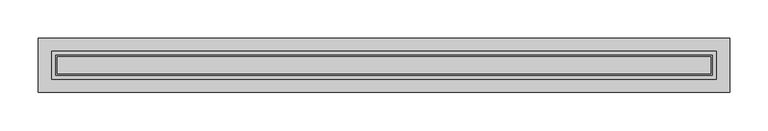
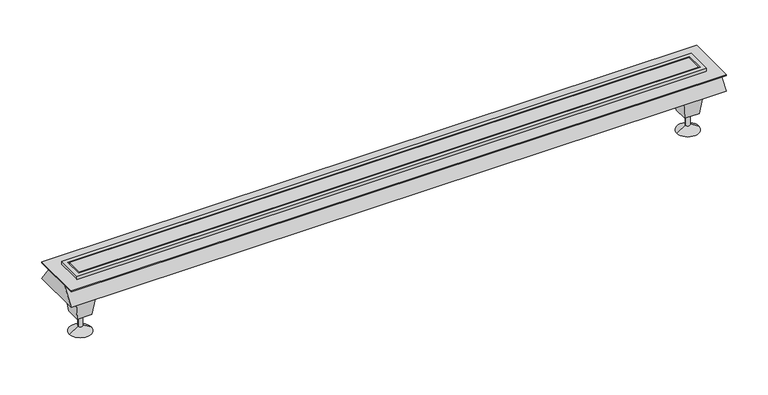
"""IFC4 building model written with IfcOpenShell, lengths in millimetres: sanitary terminal geometry, NLRS_PF_52_UN_XS Z1 Complete Set_Easydrain : XS-Z1 Brushed with M2 flat siphon."""

from ifc_helpers import new_model, si_unit, frame, origin, place, context, project, spatial, polyline, circle_curve, outline, extrude, faceted_brep, source, transform, mapped, element, save
from ifc_brep_helpers import plane_surface, cylinder_surface, revolved_surface, advanced_brep


def sanitary_terminal_618b5920(model_context):
    return source(origin(), model_context, "Body", "SolidModel", [
        advanced_brep(
        [(420.5, 0.0, -69.0), (414.5, 0.0, -69.0), (417.5, 0.0, -69.0), (420.5, 0.0, -87.5), (414.5, 0.0, -87.5), (432.5, 0.0, -95.0), (402.5, 0.0, -95.0), (417.5, 0.0, -95.0)],
        [
            (0, 1, circle_curve(frame((417.5, 0.0, -69.0), z_axis=(0.0, 0.0, 1.0), x_axis=(-1.0, 0.0, 0.0)), 3.0)),
            (1, 2),
            (2, 0),
            (1, 0, circle_curve(frame((417.5, 0.0, -69.0), z_axis=(0.0, 0.0, 1.0), x_axis=(-1.0, 0.0, 0.0)), 3.0)),
            (3, 4, circle_curve(frame((417.5, 0.0, -87.5), z_axis=(0.0, 0.0, 1.0), x_axis=(-1.0, 0.0, 0.0)), 3.0)),
            (4, 1),
            (0, 3),
            (4, 3, circle_curve(frame((417.5, 0.0, -87.5), z_axis=(0.0, 0.0, 1.0), x_axis=(-1.0, 0.0, 0.0)), 3.0)),
            (5, 6, circle_curve(frame((417.5, 0.0, -95.0), z_axis=(0.0, 0.0, 1.0), x_axis=(-1.0, 0.0, 0.0)), 15.0)),
            (6, 4),
            (3, 5),
            (6, 5, circle_curve(frame((417.5, 0.0, -95.0), z_axis=(0.0, 0.0, 1.0), x_axis=(-1.0, 0.0, 0.0)), 15.0)),
            (7, 6),
            (5, 7),
        ],
        [
            plane_surface(frame((417.5, 0.0, -69.0), z_axis=(0.0, 0.0, 1.0), x_axis=(-1.0, 0.0, 0.0))),
            cylinder_surface(frame((417.5, 0.0, -103.1782032), z_axis=(0.0, 0.0, -1.0), x_axis=(-1.0, 0.0, 0.0)), 3.0),
            revolved_surface(polyline([(414.5, 0.0, -87.5), (402.5, 0.0, -95.0)]), (417.5, 0.0, -103.1782032), (0.0, 0.0, -1.0)),
            plane_surface(frame((417.5, 0.0, -95.0), z_axis=(0.0, 0.0, -1.0), x_axis=(-1.0, 0.0, 0.0))),
        ],
        [
            (0, [[1, 2, 3]]),
            (0, [[4, -3, -2]]),
            (1, [[5, 6, -1, 7]]),
            (1, [[8, -7, -4, -6]]),
            (2, [[9, 10, -5, 11]]),
            (2, [[12, -11, -8, -10]]),
            (3, [[13, -9, 14]]),
            (3, [[-14, -12, -13]]),
        ],
    ),
        faceted_brep([(407.5, 10.0, -69.0), (427.5, 10.0, -69.0), (427.5, -10.0, -69.0), (407.5, -10.0, -69.0), (402.5, 15.0, -29.0), (402.5, -15.0, -29.0), (432.5, -15.0, -29.0), (432.5, 15.0, -29.0)], [[[0, 1, 2, 3]], [[4, 5, 6, 7]], [[5, 4, 0, 3]], [[6, 5, 3, 2]], [[7, 6, 2, 1]], [[4, 7, 1, 0]]]),
        advanced_brep(
        [(-414.5, 0.0, -69.0), (-420.5, 0.0, -69.0), (-417.5, 0.0, -69.0), (-414.5, 0.0, -87.5), (-420.5, 0.0, -87.5), (-402.5, 0.0, -95.0), (-432.5, 0.0, -95.0), (-417.5, 0.0, -95.0)],
        [
            (0, 1, circle_curve(frame((-417.5, 0.0, -69.0), z_axis=(0.0, 0.0, 1.0), x_axis=(-1.0, 0.0, 0.0)), 3.0)),
            (1, 2),
            (2, 0),
            (1, 0, circle_curve(frame((-417.5, 0.0, -69.0), z_axis=(0.0, 0.0, 1.0), x_axis=(-1.0, 0.0, 0.0)), 3.0)),
            (3, 4, circle_curve(frame((-417.5, 0.0, -87.5), z_axis=(0.0, 0.0, 1.0), x_axis=(-1.0, 0.0, 0.0)), 3.0)),
            (4, 1),
            (0, 3),
            (4, 3, circle_curve(frame((-417.5, 0.0, -87.5), z_axis=(0.0, 0.0, 1.0), x_axis=(-1.0, 0.0, 0.0)), 3.0)),
            (5, 6, circle_curve(frame((-417.5, 0.0, -95.0), z_axis=(0.0, 0.0, 1.0), x_axis=(-1.0, 0.0, 0.0)), 15.0)),
            (6, 4),
            (3, 5),
            (6, 5, circle_curve(frame((-417.5, 0.0, -95.0), z_axis=(0.0, 0.0, 1.0), x_axis=(-1.0, 0.0, 0.0)), 15.0)),
            (7, 6),
            (5, 7),
        ],
        [
            plane_surface(frame((-417.5, 0.0, -69.0), z_axis=(0.0, 0.0, 1.0), x_axis=(-1.0, 0.0, 0.0))),
            cylinder_surface(frame((-417.5, 0.0, -103.1782032), z_axis=(0.0, 0.0, -1.0), x_axis=(-1.0, 0.0, 0.0)), 3.0),
            revolved_surface(polyline([(-420.5, 0.0, -87.5), (-432.5, 0.0, -95.0)]), (-417.5, 0.0, -103.1782032), (0.0, 0.0, -1.0)),
            plane_surface(frame((-417.5, 0.0, -95.0), z_axis=(0.0, 0.0, -1.0), x_axis=(-1.0, 0.0, 0.0))),
        ],
        [
            (0, [[1, 2, 3]]),
            (0, [[4, -3, -2]]),
            (1, [[5, 6, -1, 7]]),
            (1, [[8, -7, -4, -6]]),
            (2, [[9, 10, -5, 11]]),
            (2, [[12, -11, -8, -10]]),
            (3, [[13, -9, 14]]),
            (3, [[-14, -12, -13]]),
        ],
    ),
        faceted_brep([(-427.5, 10.0, -69.0), (-407.5, 10.0, -69.0), (-407.5, -10.0, -69.0), (-427.5, -10.0, -69.0), (-432.5, 15.0, -29.0), (-432.5, -15.0, -29.0), (-402.5, -15.0, -29.0), (-402.5, 15.0, -29.0)], [[[0, 1, 2, 3]], [[4, 5, 6, 7]], [[5, 4, 0, 3]], [[6, 5, 3, 2]], [[7, 6, 2, 1]], [[4, 7, 1, 0]]]),
        extrude(outline(polyline([(450.0, 35.0), (450.0, -35.0), (-450.0, -35.0), (-450.0, 35.0), (450.0, 35.0)])), frame((0.0, 0.0, -6.4659054), z_axis=(0.0, 0.0, 1.0), x_axis=(1.0, 0.0, 0.0)), (0.0, 0.0, 1.0), 1.4659054),
        extrude(outline(polyline([(-18.0, -5.0), (18.0, -5.0), (35.0, -29.0), (-35.0, -29.0), (-18.0, -5.0)])), frame((-450.0, 0.0, 0.0), z_axis=(1.0, 0.0, 0.0), x_axis=(0.0, 1.0, 0.0)), (0.0, 0.0, 1.0), 900.0),
        extrude(outline(polyline([(432.5, 18.0), (432.5, -18.0), (-432.5, -18.0), (-432.5, 18.0), (432.5, 18.0)]), holes=[polyline([(427.5, 13.0), (-427.5, 13.0), (-427.5, -13.0), (427.5, -13.0), (427.5, 13.0)])]), frame((0.0, 0.0, -5.0), z_axis=(0.0, 0.0, 1.0), x_axis=(1.0, 0.0, 0.0)), (0.0, 0.0, 1.0), 5.0),
        extrude(outline(polyline([(425.5, 11.0), (425.5, -11.0), (-425.5, -11.0), (-425.5, 11.0), (425.5, 11.0)])), frame((0.0, 0.0, -5.0), z_axis=(0.0, 0.0, 1.0), x_axis=(1.0, 0.0, 0.0)), (0.0, 0.0, 1.0), 5.0),
    ])


if __name__ == "__main__":
    model = new_model("IFC4")
    model_context = context("Model", 3, world=origin())
    ifc_project = project(units=[si_unit("LENGTHUNIT", "METRE", prefix="MILLI")], contexts=[model_context])
    site = spatial("IfcSite", under=ifc_project)
    building = spatial("IfcBuilding", under=site)
    placement = place(None, origin())
    sanitary_terminal_shape = sanitary_terminal_618b5920(model_context)
    element("IfcSanitaryTerminal", 1, ObjectType="NLRS_PF_52_UN_XS Z1 Complete Set_Easydrain : XS-Z1 Brushed with M2 flat siphon", at=placement, inside=building, context=model_context, shape_type="MappedRepresentation", body=[
        mapped(sanitary_terminal_shape, transform((0.0, 0.0, 0.0), x_axis=(1.0, 0.0, 0.0), y_axis=(0.0, 1.0, 0.0), z_axis=(0.0, 0.0, 1.0))),
    ])
    save(model, "model.ifc")
